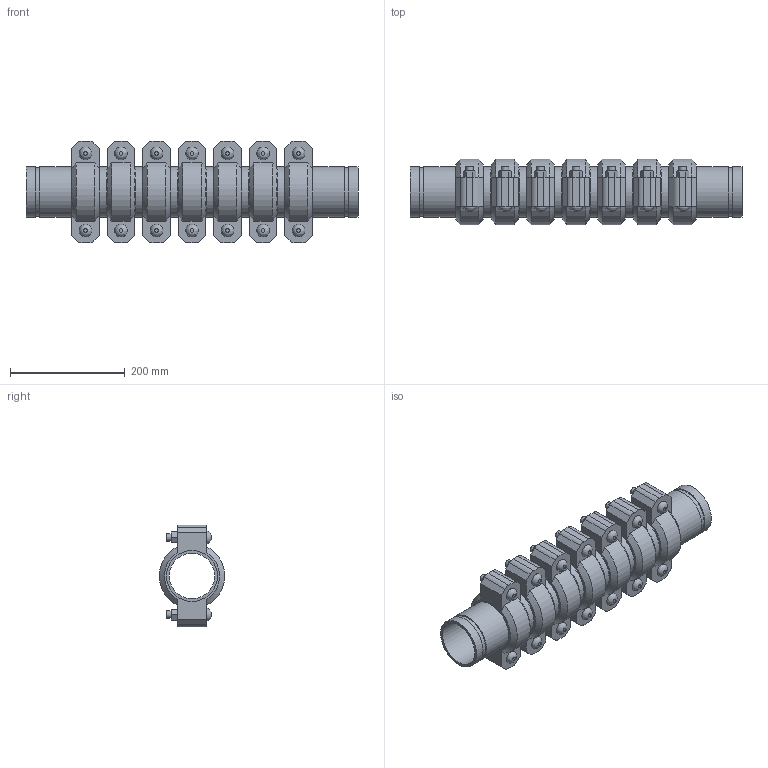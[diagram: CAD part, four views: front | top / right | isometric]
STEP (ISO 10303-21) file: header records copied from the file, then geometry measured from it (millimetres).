
FILE_DESCRIPTION(/* description */ ('VIC EXPANSION JOINT 7 COUPLINGS EXPANDED STYLE 155 (OGS)','CAx-IF Rec.Pracs.---Representation and Presentation of Product Manufacturing Information (PMI)---4.0---2014-10-13'),/* implementation_level */ '2;1');
FILE_NAME(/* name */ 'C:\Users\kkamble\AppData\Roaming\Autodesk\ApplicationPlugins\Victaulic.Temp\A179\Victaulic_IPS_Expansion Joint_Expanded_7 Couplings_Style 155 (OGS)_3 (80).stp',/* time_stamp */ '2021-06-27T00:06:51+02:00',/* author */ ('kkamble'),/* organization */ ('Victaulic'),/* preprocessor_version */ 'ST-DEVELOPER v17.2',/* originating_system */ 'Autodesk Inventor 2019',/* authorisation */ '');
FILE_SCHEMA (('AP242_MANAGED_MODEL_BASED_3D_ENGINEERING_MIM_LF { 1 0 10303 442 1 1 4 }'));
Length unit declared in the file: inch
Products named in the file (4): 155-03.0; Nipple-03.0; Nipple-03.0_1; 075-03.0
Assembly tree (15 placements, depth 2):
  155-03.0
    Nipple-03.0  x2
    Nipple-03.0_1  x6
    075-03.0  x7
Bounding box: 579.37 x 113.88 x 177.8 mm (x, y, z)
Volume: 2983590.4 mm3; surface area: 763672.2 mm2
Topology: 15 solids, 29 shells, 495 faces, 1171 edges, 822 vertices
Faces by surface type: plane 300, cylinder 153, cone 28, bspline 14
Full cylindrical faces by diameter (mm): 12.7 x28, 14.605 x14, 79.35 x8, 82.55 x7, 84.938 x16, 88.9 x38
Entity records: 2833 total; most frequent: CARTESIAN_POINT 499, DIRECTION 473, ORIENTED_EDGE 386, EDGE_CURVE 193, AXIS2_PLACEMENT_3D 190, VERTEX_POINT 138, EDGE_LOOP 107, LINE 93
